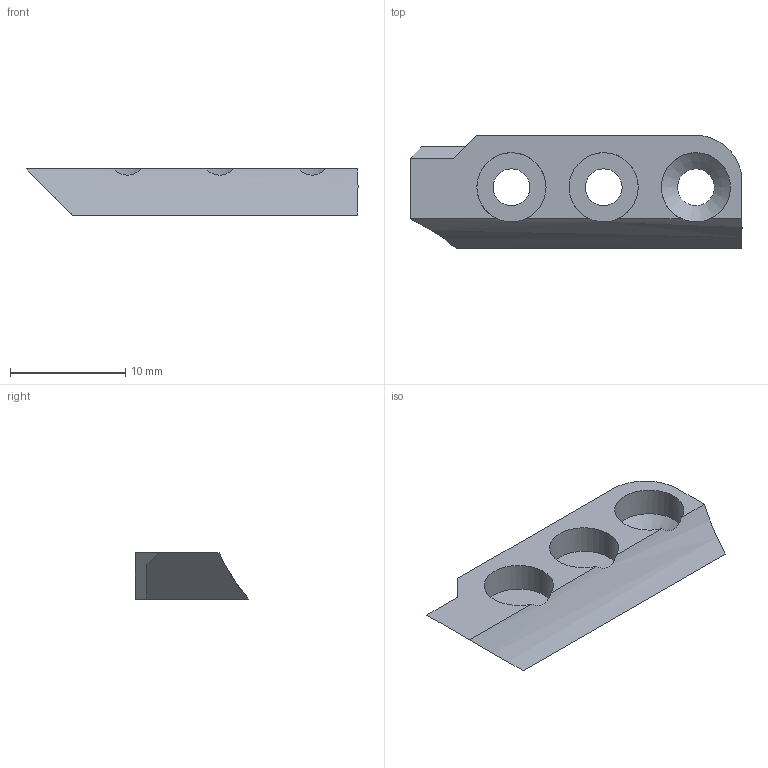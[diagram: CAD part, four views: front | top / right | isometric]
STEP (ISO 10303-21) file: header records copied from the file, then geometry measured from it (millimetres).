
FILE_DESCRIPTION(/* description */ (''),/* implementation_level */ '2;1');
FILE_NAME(/* name */ '3-16-2 Bottom wishbone right cap.step',/* time_stamp */ '2025-05-10T22:04:44+02:00',/* author */ (''),/* organization */ (''),/* preprocessor_version */ 'ST-DEVELOPER v20.1',/* originating_system */ 'Autodesk Translation Framework v14.4.0.0',/* authorisation */ '');
FILE_SCHEMA (('AUTOMOTIVE_DESIGN { 1 0 10303 214 3 1 1 }'));
Length unit declared in the file: millimetre
Products named in the file (1): 3-16-2 Bottom wishbone right cap
Bounding box: 28.8 x 9.82 x 4 mm (x, y, z)
Volume: 586.5 mm3; surface area: 857.7 mm2
Topology: 1 solids, 1 shells, 19 faces, 54 edges, 34 vertices
Faces by surface type: plane 8, cylinder 8, cone 3
Full cylindrical faces by diameter (mm): 3.2 x3, 6 x3
Entity records: 692 total; most frequent: CARTESIAN_POINT 135, DIRECTION 110, ORIENTED_EDGE 108, EDGE_CURVE 54, AXIS2_PLACEMENT_3D 39, VERTEX_POINT 34, LINE 32, VECTOR 32
